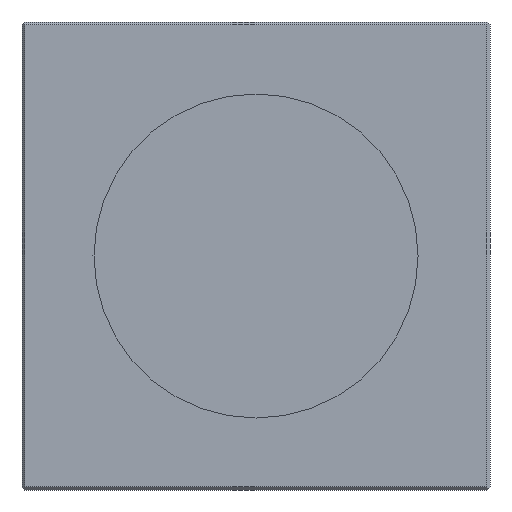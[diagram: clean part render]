
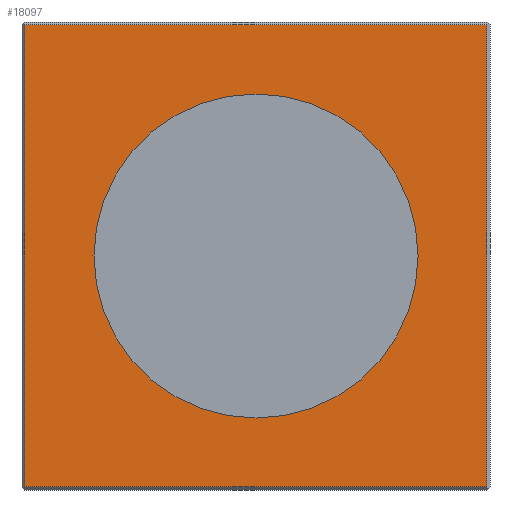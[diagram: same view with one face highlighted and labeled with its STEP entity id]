
A CAD part, front view. The second image highlights one B-rep face of the part: STEP entity #18097.
In plain terms, the highlighted planar face has unit normal (0, -1, 0).
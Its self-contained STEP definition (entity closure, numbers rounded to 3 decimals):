
#17802=DIRECTION('',(0.,0.,-1.));
#17803=VECTOR('',#17802,77.);
#17804=CARTESIAN_POINT('',(-38.5,-4.05,38.5));
#17805=LINE('',#17804,#17803);
#17806=DIRECTION('',(-1.,0.,0.));
#17807=VECTOR('',#17806,77.);
#17808=CARTESIAN_POINT('',(38.5,-4.05,38.5));
#17809=LINE('',#17808,#17807);
#17810=DIRECTION('',(0.,0.,1.));
#17811=VECTOR('',#17810,77.);
#17812=CARTESIAN_POINT('',(38.5,-4.05,-38.5));
#17813=LINE('',#17812,#17811);
#17814=DIRECTION('',(1.,0.,0.));
#17815=VECTOR('',#17814,77.);
#17816=CARTESIAN_POINT('',(-38.5,-4.05,-38.5));
#17817=LINE('',#17816,#17815);
#17990=CARTESIAN_POINT('',(-38.5,-4.05,38.5));
#17991=CARTESIAN_POINT('',(-38.5,-4.05,-38.5));
#17992=VERTEX_POINT('',#17990);
#17993=VERTEX_POINT('',#17991);
#18004=CARTESIAN_POINT('',(38.5,-4.05,-38.5));
#18005=CARTESIAN_POINT('',(38.5,-4.05,38.5));
#18006=VERTEX_POINT('',#18004);
#18007=VERTEX_POINT('',#18005);
#18082=CARTESIAN_POINT('',(0.,-4.05,0.));
#18083=DIRECTION('',(0.,-1.,0.));
#18084=DIRECTION('',(0.,0.,1.));
#18085=AXIS2_PLACEMENT_3D('',#18082,#18083,#18084);
#18086=PLANE('',#18085);
#18088=ORIENTED_EDGE('',*,*,#18087,.F.);
#18090=ORIENTED_EDGE('',*,*,#18089,.F.);
#18092=ORIENTED_EDGE('',*,*,#18091,.F.);
#18094=ORIENTED_EDGE('',*,*,#18093,.F.);
#18095=EDGE_LOOP('',(#18088,#18090,#18092,#18094));
#18096=FACE_OUTER_BOUND('',#18095,.F.);
#18097=ADVANCED_FACE('',(#18096),#18086,.T.);
#18087=EDGE_CURVE('',#17992,#17993,#17805,.T.);
#18089=EDGE_CURVE('',#18007,#17992,#17809,.T.);
#18091=EDGE_CURVE('',#18006,#18007,#17813,.T.);
#18093=EDGE_CURVE('',#17993,#18006,#17817,.T.);
